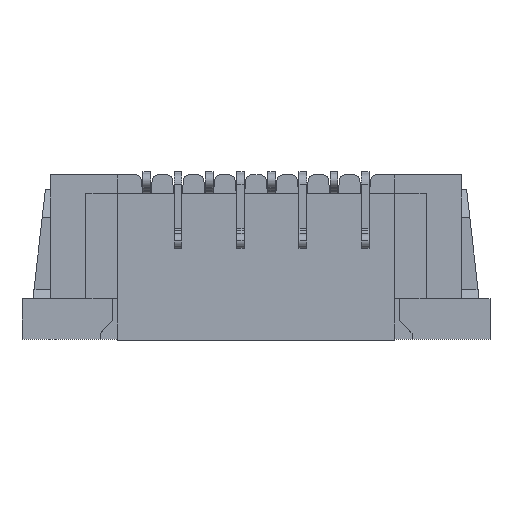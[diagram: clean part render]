
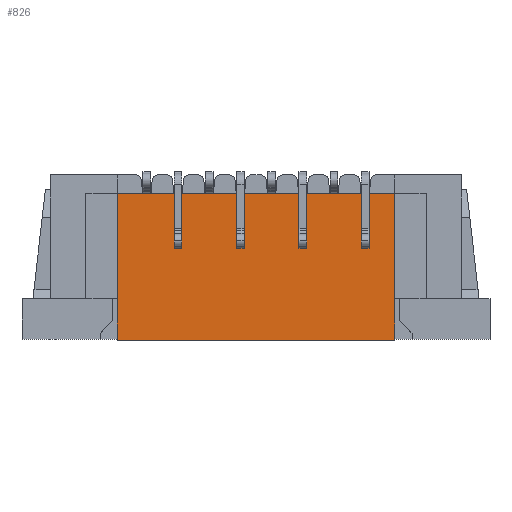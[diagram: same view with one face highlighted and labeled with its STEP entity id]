
A CAD part, top view. The second image highlights one B-rep face of the part: STEP entity #826.
In plain terms, the highlighted planar face has unit normal (0, 0, 1).
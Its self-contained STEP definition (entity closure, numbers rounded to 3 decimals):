
#126 = CARTESIAN_POINT ( 'NONE',  ( 3.45, -4.7, 0. ) ) ;
#826 = ADVANCED_FACE ( 'NONE', ( #5755 ), #19363, .T. ) ;
#1531 = LINE ( 'NONE', #26788, #38459 ) ;
#2009 = CARTESIAN_POINT ( 'NONE',  ( 3.635, 0., 0. ) ) ;
#4460 = EDGE_LOOP ( 'NONE', ( #5984, #11809, #13112, #27605, #11867, #20457 ) ) ;
#5216 = VERTEX_POINT ( 'NONE', #38100 ) ;
#5755 = FACE_OUTER_BOUND ( 'NONE', #4460, .T. ) ;
#5984 = ORIENTED_EDGE ( 'NONE', *, *, #25480, .F. ) ;
#6832 = CARTESIAN_POINT ( 'NONE',  ( -5.45, -3.37, 0. ) ) ;
#7237 = LINE ( 'NONE', #6832, #32238 ) ;
#7518 = VECTOR ( 'NONE', #14964, 1000. ) ;
#7945 = CARTESIAN_POINT ( 'NONE',  ( -6.45, -4.7, 0. ) ) ;
#8314 = DIRECTION ( 'NONE',  ( 0., 1., 0. ) ) ;
#8516 = LINE ( 'NONE', #15538, #19401 ) ;
#10506 = EDGE_CURVE ( 'NONE', #10576, #25097, #8516, .T. ) ;
#10576 = VERTEX_POINT ( 'NONE', #32256 ) ;
#11791 = CARTESIAN_POINT ( 'NONE',  ( -5.45, -4.7, 0. ) ) ;
#11809 = ORIENTED_EDGE ( 'NONE', *, *, #24874, .T. ) ;
#11867 = ORIENTED_EDGE ( 'NONE', *, *, #21532, .T. ) ;
#12546 = CARTESIAN_POINT ( 'NONE',  ( -5.45, -3.37, 0. ) ) ;
#13112 = ORIENTED_EDGE ( 'NONE', *, *, #32775, .T. ) ;
#14964 = DIRECTION ( 'NONE',  ( 1., 0., 0. ) ) ;
#15538 = CARTESIAN_POINT ( 'NONE',  ( 3.45, -4.7, 0. ) ) ;
#17766 = VERTEX_POINT ( 'NONE', #12546 ) ;
#18501 = LINE ( 'NONE', #28462, #35246 ) ;
#19363 = PLANE ( 'NONE',  #39817 ) ;
#19401 = VECTOR ( 'NONE', #8314, 1000. ) ;
#20457 = ORIENTED_EDGE ( 'NONE', *, *, #10506, .T. ) ;
#20815 = CARTESIAN_POINT ( 'NONE',  ( 3.45, 0., 0. ) ) ;
#21125 = DIRECTION ( 'NONE',  ( 1., 0., 0. ) ) ;
#21532 = EDGE_CURVE ( 'NONE', #27768, #10576, #1531, .T. ) ;
#22190 = VECTOR ( 'NONE', #21125, 1000. ) ;
#24497 = EDGE_CURVE ( 'NONE', #27689, #27768, #34224, .T. ) ;
#24874 = EDGE_CURVE ( 'NONE', #5216, #17766, #18501, .T. ) ;
#25097 = VERTEX_POINT ( 'NONE', #20815 ) ;
#25480 = EDGE_CURVE ( 'NONE', #5216, #25097, #33832, .T. ) ;
#26788 = CARTESIAN_POINT ( 'NONE',  ( 3.45, -4.7, 0. ) ) ;
#27205 = DIRECTION ( 'NONE',  ( 0., 1., 0. ) ) ;
#27605 = ORIENTED_EDGE ( 'NONE', *, *, #24497, .T. ) ;
#27689 = VERTEX_POINT ( 'NONE', #11791 ) ;
#27768 = VERTEX_POINT ( 'NONE', #126 ) ;
#28462 = CARTESIAN_POINT ( 'NONE',  ( -5.45, -3.37, 0. ) ) ;
#29312 = CARTESIAN_POINT ( 'NONE',  ( 3.871, 0.4, 0. ) ) ;
#31631 = DIRECTION ( 'NONE',  ( 1., 0., 0. ) ) ;
#32238 = VECTOR ( 'NONE', #35890, 1000. ) ;
#32256 = CARTESIAN_POINT ( 'NONE',  ( 3.45, -3.37, 0. ) ) ;
#32775 = EDGE_CURVE ( 'NONE', #17766, #27689, #7237, .T. ) ;
#33832 = LINE ( 'NONE', #2009, #7518 ) ;
#34224 = LINE ( 'NONE', #7945, #22190 ) ;
#35246 = VECTOR ( 'NONE', #35444, 1000. ) ;
#35444 = DIRECTION ( 'NONE',  ( 0., -1., 0. ) ) ;
#35890 = DIRECTION ( 'NONE',  ( 0., -1., 0. ) ) ;
#38100 = CARTESIAN_POINT ( 'NONE',  ( -5.45, 0., 0. ) ) ;
#38422 = DIRECTION ( 'NONE',  ( 0., 0., 1. ) ) ;
#38459 = VECTOR ( 'NONE', #27205, 1000. ) ;
#39817 = AXIS2_PLACEMENT_3D ( 'NONE', #29312, #38422, #31631 ) ;
